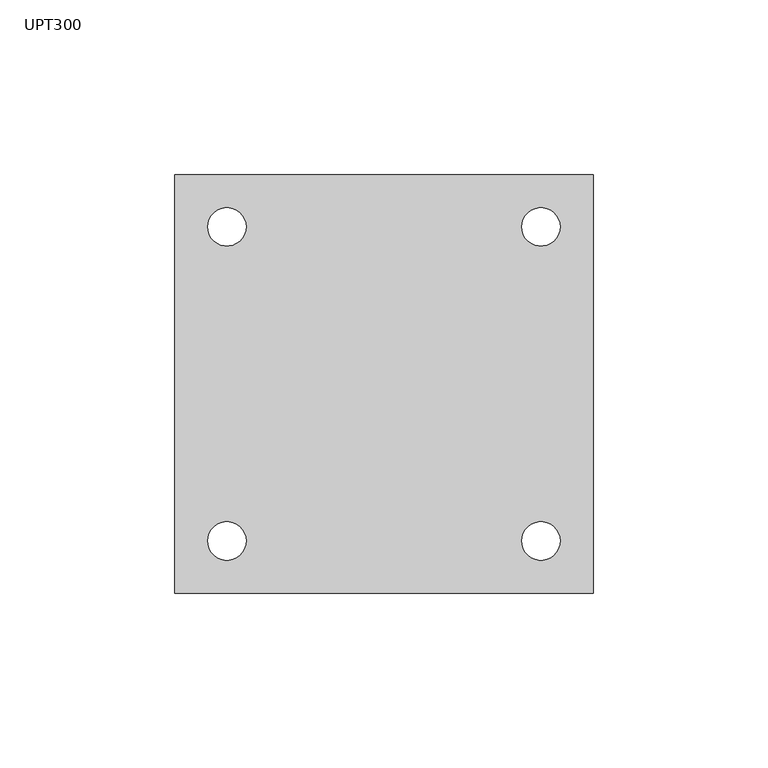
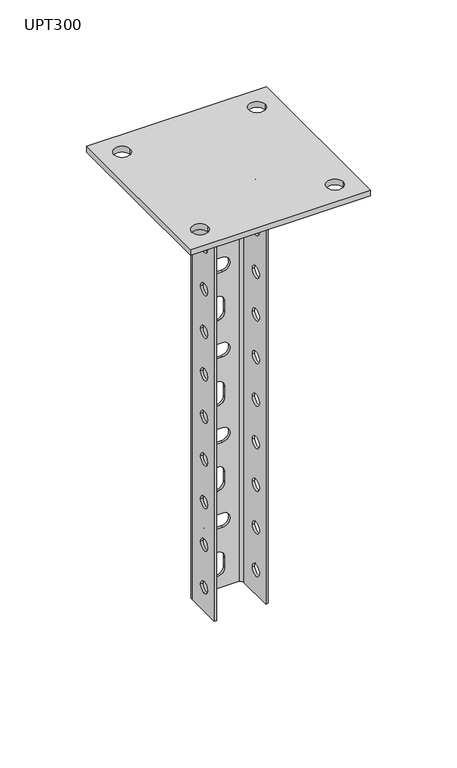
"""IFC4 building model written with IfcOpenShell, lengths in millimetres: proxy geometry, КМ Профиль_Универсальная потолочная стойка UPT : UPT300."""

from ifc_helpers import new_model, si_unit, point, frame, frame_2d, origin, place, context, project, spatial, polyline, circle_curve, trimmed, segment, composite_curve, outline, extrude, source, transform, mapped, element, save
from ifc_brep_helpers import plane_surface, cylinder_surface, revolved_surface, advanced_brep


def upt300_a44f2827(model_context):
    return source(origin(), model_context, "Body", "SolidModel", [
        advanced_brep(
        [(18.0, -14.5, -4.0), (18.0, 11.0, -4.0), (14.5, 14.5, -4.0), (-14.5, 14.5, -4.0), (-18.0, 11.0, -4.0), (-18.0, -14.5, -4.0), (-16.5, -14.5, -4.0), (-16.5, 11.0, -4.0), (-14.5, 13.0, -4.0), (14.5, 13.0, -4.0), (16.5, 11.0, -4.0), (16.5, -14.5, -4.0), (18.0, 11.0, -304.0), (18.0, -14.5, -304.0), (16.5, -14.5, -304.0), (16.5, 11.0, -304.0), (14.5, 13.0, -304.0), (-14.5, 13.0, -304.0), (-16.5, 11.0, -304.0), (-16.5, -14.5, -304.0), (-18.0, -14.5, -304.0), (-18.0, 11.0, -304.0), (-14.5, 14.5, -304.0), (14.5, 14.5, -304.0), (18.0, -7.0, -47.0), (18.0, 1.0, -47.0), (18.0, -7.0, -77.0), (18.0, 1.0, -77.0), (18.0, -7.0, -107.0), (18.0, 1.0, -107.0), (18.0, -7.0, -137.0), (18.0, 1.0, -137.0), (18.0, -7.0, -167.0), (18.0, 1.0, -167.0), (18.0, -7.0, -197.0), (18.0, 1.0, -197.0), (18.0, -7.0, -227.0), (18.0, 1.0, -227.0), (18.0, -7.0, -17.0), (18.0, 1.0, -17.0), (18.0, -7.0, -257.0), (18.0, 1.0, -257.0), (18.0, -7.0, -287.0), (18.0, 1.0, -287.0), (3.5, 14.5, -132.0), (-3.5, 14.5, -132.0), (-3.5, 14.5, -142.0), (3.5, 14.5, -142.0), (3.5, 14.5, -192.0), (-3.5, 14.5, -192.0), (-3.5, 14.5, -202.0), (3.5, 14.5, -202.0), (3.5, 14.5, -72.0), (-3.5, 14.5, -72.0), (-3.5, 14.5, -82.0), (3.5, 14.5, -82.0), (-5.0, 14.5, -103.5), (-5.0, 14.5, -110.5), (5.0, 14.5, -110.5), (5.0, 14.5, -103.5), (-5.0, 14.5, -163.5), (-5.0, 14.5, -170.5), (5.0, 14.5, -170.5), (5.0, 14.5, -163.5), (-5.0, 14.5, -223.5), (-5.0, 14.5, -230.5), (5.0, 14.5, -230.5), (5.0, 14.5, -223.5), (-5.0, 14.5, -43.5), (-5.0, 14.5, -50.5), (5.0, 14.5, -50.5), (5.0, 14.5, -43.5), (3.5, 14.5, -12.0), (-3.5, 14.5, -12.0), (-3.5, 14.5, -22.0), (3.5, 14.5, -22.0), (3.5, 14.5, -252.0), (-3.5, 14.5, -252.0), (-3.5, 14.5, -262.0), (3.5, 14.5, -262.0), (-5.0, 14.5, -283.5), (-5.0, 14.5, -290.5), (5.0, 14.5, -290.5), (5.0, 14.5, -283.5), (-18.0, -7.0, -17.0), (-18.0, 1.0, -17.0), (-18.0, -7.0, -47.0), (-18.0, 1.0, -47.0), (-18.0, -7.0, -77.0), (-18.0, 1.0, -77.0), (-18.0, -7.0, -107.0), (-18.0, 1.0, -107.0), (-18.0, -7.0, -137.0), (-18.0, 1.0, -137.0), (-18.0, -7.0, -167.0), (-18.0, 1.0, -167.0), (-18.0, -7.0, -197.0), (-18.0, 1.0, -197.0), (-18.0, -7.0, -227.0), (-18.0, 1.0, -227.0), (-18.0, -7.0, -257.0), (-18.0, 1.0, -257.0), (-18.0, -7.0, -287.0), (-18.0, 1.0, -287.0), (-16.5, 1.0, -17.0), (-16.5, -7.0, -17.0), (-16.5, 1.0, -47.0), (-16.5, -7.0, -47.0), (-16.5, 1.0, -77.0), (-16.5, -7.0, -77.0), (-16.5, 1.0, -107.0), (-16.5, -7.0, -107.0), (-16.5, 1.0, -137.0), (-16.5, -7.0, -137.0), (-16.5, 1.0, -167.0), (-16.5, -7.0, -167.0), (-16.5, 1.0, -197.0), (-16.5, -7.0, -197.0), (-16.5, 1.0, -227.0), (-16.5, -7.0, -227.0), (-16.5, 1.0, -257.0), (-16.5, -7.0, -257.0), (-16.5, 1.0, -287.0), (-16.5, -7.0, -287.0), (-3.5, 13.0, -132.0), (3.5, 13.0, -132.0), (3.5, 13.0, -142.0), (-3.5, 13.0, -142.0), (-3.5, 13.0, -192.0), (3.5, 13.0, -192.0), (3.5, 13.0, -202.0), (-3.5, 13.0, -202.0), (-3.5, 13.0, -72.0), (3.5, 13.0, -72.0), (3.5, 13.0, -82.0), (-3.5, 13.0, -82.0), (-5.0, 13.0, -110.5), (-5.0, 13.0, -103.5), (5.0, 13.0, -103.5), (5.0, 13.0, -110.5), (-5.0, 13.0, -170.5), (-5.0, 13.0, -163.5), (5.0, 13.0, -163.5), (5.0, 13.0, -170.5), (-5.0, 13.0, -230.5), (-5.0, 13.0, -223.5), (5.0, 13.0, -223.5), (5.0, 13.0, -230.5), (-5.0, 13.0, -50.5), (-5.0, 13.0, -43.5), (5.0, 13.0, -43.5), (5.0, 13.0, -50.5), (-3.5, 13.0, -12.0), (3.5, 13.0, -12.0), (3.5, 13.0, -22.0), (-3.5, 13.0, -22.0), (-3.5, 13.0, -252.0), (3.5, 13.0, -252.0), (3.5, 13.0, -262.0), (-3.5, 13.0, -262.0), (-5.0, 13.0, -290.5), (-5.0, 13.0, -283.5), (5.0, 13.0, -283.5), (5.0, 13.0, -290.5), (16.5, 1.0, -47.0), (16.5, -7.0, -47.0), (16.5, 1.0, -77.0), (16.5, -7.0, -77.0), (16.5, 1.0, -107.0), (16.5, -7.0, -107.0), (16.5, 1.0, -137.0), (16.5, -7.0, -137.0), (16.5, 1.0, -167.0), (16.5, -7.0, -167.0), (16.5, 1.0, -197.0), (16.5, -7.0, -197.0), (16.5, 1.0, -227.0), (16.5, -7.0, -227.0), (16.5, 1.0, -17.0), (16.5, -7.0, -17.0), (16.5, 1.0, -257.0), (16.5, -7.0, -257.0), (16.5, 1.0, -287.0), (16.5, -7.0, -287.0)],
        [
            (0, 1),
            (1, 2, circle_curve(frame((14.5, 11.0, -4.0), z_axis=(0.0, 0.0, 1.0), x_axis=(1.0, 0.0, 0.0)), 3.5)),
            (2, 3),
            (3, 4, circle_curve(frame((-14.5, 11.0, -4.0), z_axis=(0.0, 0.0, 1.0), x_axis=(1.0, 0.0, 0.0)), 3.5)),
            (4, 5),
            (5, 6),
            (6, 7),
            (7, 8, circle_curve(frame((-14.5, 11.0, -4.0), z_axis=(0.0, 0.0, -1.0), x_axis=(1.0, 0.0, 0.0)), 2.0)),
            (8, 9),
            (9, 10, circle_curve(frame((14.5, 11.0, -4.0), z_axis=(0.0, 0.0, -1.0), x_axis=(1.0, 0.0, 0.0)), 2.0)),
            (10, 11),
            (11, 0),
            (12, 13),
            (13, 14),
            (14, 15),
            (15, 16, circle_curve(frame((14.5, 11.0, -304.0), z_axis=(0.0, 0.0, 1.0), x_axis=(1.0, 0.0, 0.0)), 2.0)),
            (16, 17),
            (17, 18, circle_curve(frame((-14.5, 11.0, -304.0), z_axis=(0.0, 0.0, 1.0), x_axis=(1.0, 0.0, 0.0)), 2.0)),
            (18, 19),
            (19, 20),
            (20, 21),
            (21, 22, circle_curve(frame((-14.5, 11.0, -304.0), z_axis=(0.0, 0.0, -1.0), x_axis=(1.0, 0.0, 0.0)), 3.5)),
            (22, 23),
            (23, 12, circle_curve(frame((14.5, 11.0, -304.0), z_axis=(0.0, 0.0, -1.0), x_axis=(1.0, 0.0, 0.0)), 3.5)),
            (0, 13),
            (12, 1),
            (24, 25, circle_curve(frame((18.0, -3.0, -47.0), z_axis=(-1.0, 0.0, 0.0), x_axis=(0.0, -1.0, 0.0)), 4.0)),
            (25, 24, circle_curve(frame((18.0, -3.0, -47.0), z_axis=(-1.0, 0.0, 0.0), x_axis=(0.0, -1.0, 0.0)), 4.0)),
            (26, 27, circle_curve(frame((18.0, -3.0, -77.0), z_axis=(-1.0, 0.0, 0.0), x_axis=(0.0, -1.0, 0.0)), 4.0)),
            (27, 26, circle_curve(frame((18.0, -3.0, -77.0), z_axis=(-1.0, 0.0, 0.0), x_axis=(0.0, -1.0, 0.0)), 4.0)),
            (28, 29, circle_curve(frame((18.0, -3.0, -107.0), z_axis=(-1.0, 0.0, 0.0), x_axis=(0.0, -1.0, 0.0)), 4.0)),
            (29, 28, circle_curve(frame((18.0, -3.0, -107.0), z_axis=(-1.0, 0.0, 0.0), x_axis=(0.0, -1.0, 0.0)), 4.0)),
            (30, 31, circle_curve(frame((18.0, -3.0, -137.0), z_axis=(-1.0, 0.0, 0.0), x_axis=(0.0, -1.0, 0.0)), 4.0)),
            (31, 30, circle_curve(frame((18.0, -3.0, -137.0), z_axis=(-1.0, 0.0, 0.0), x_axis=(0.0, -1.0, 0.0)), 4.0)),
            (32, 33, circle_curve(frame((18.0, -3.0, -167.0), z_axis=(-1.0, 0.0, 0.0), x_axis=(0.0, -1.0, 0.0)), 4.0)),
            (33, 32, circle_curve(frame((18.0, -3.0, -167.0), z_axis=(-1.0, 0.0, 0.0), x_axis=(0.0, -1.0, 0.0)), 4.0)),
            (34, 35, circle_curve(frame((18.0, -3.0, -197.0), z_axis=(-1.0, 0.0, 0.0), x_axis=(0.0, -1.0, 0.0)), 4.0)),
            (35, 34, circle_curve(frame((18.0, -3.0, -197.0), z_axis=(-1.0, 0.0, 0.0), x_axis=(0.0, -1.0, 0.0)), 4.0)),
            (36, 37, circle_curve(frame((18.0, -3.0, -227.0), z_axis=(-1.0, 0.0, 0.0), x_axis=(0.0, -1.0, 0.0)), 4.0)),
            (37, 36, circle_curve(frame((18.0, -3.0, -227.0), z_axis=(-1.0, 0.0, 0.0), x_axis=(0.0, -1.0, 0.0)), 4.0)),
            (38, 39, circle_curve(frame((18.0, -3.0, -17.0), z_axis=(-1.0, 0.0, 0.0), x_axis=(0.0, -1.0, 0.0)), 4.0)),
            (39, 38, circle_curve(frame((18.0, -3.0, -17.0), z_axis=(-1.0, 0.0, 0.0), x_axis=(0.0, -1.0, 0.0)), 4.0)),
            (40, 41, circle_curve(frame((18.0, -3.0, -257.0), z_axis=(-1.0, 0.0, 0.0), x_axis=(0.0, -1.0, 0.0)), 4.0)),
            (41, 40, circle_curve(frame((18.0, -3.0, -257.0), z_axis=(-1.0, 0.0, 0.0), x_axis=(0.0, -1.0, 0.0)), 4.0)),
            (42, 43, circle_curve(frame((18.0, -3.0, -287.0), z_axis=(-1.0, 0.0, 0.0), x_axis=(0.0, -1.0, 0.0)), 4.0)),
            (43, 42, circle_curve(frame((18.0, -3.0, -287.0), z_axis=(-1.0, 0.0, 0.0), x_axis=(0.0, -1.0, 0.0)), 4.0)),
            (23, 2),
            (22, 3),
            (44, 45),
            (45, 46, circle_curve(frame((-3.5, 14.5, -137.0), z_axis=(0.0, -1.0, 0.0), x_axis=(-1.0, 0.0, 0.0)), 5.0)),
            (46, 47),
            (47, 44, circle_curve(frame((3.5, 14.5, -137.0), z_axis=(0.0, -1.0, 0.0), x_axis=(-1.0, 0.0, 0.0)), 5.0)),
            (48, 49),
            (49, 50, circle_curve(frame((-3.5, 14.5, -197.0), z_axis=(0.0, -1.0, 0.0), x_axis=(-1.0, 0.0, 0.0)), 5.0)),
            (50, 51),
            (51, 48, circle_curve(frame((3.5, 14.5, -197.0), z_axis=(0.0, -1.0, 0.0), x_axis=(-1.0, 0.0, 0.0)), 5.0)),
            (52, 53),
            (53, 54, circle_curve(frame((-3.5, 14.5, -77.0), z_axis=(0.0, -1.0, 0.0), x_axis=(-1.0, 0.0, 0.0)), 5.0)),
            (54, 55),
            (55, 52, circle_curve(frame((3.5, 14.5, -77.0), z_axis=(0.0, -1.0, 0.0), x_axis=(-1.0, 0.0, 0.0)), 5.0)),
            (56, 57),
            (57, 58, circle_curve(frame((0.0, 14.5, -110.5), z_axis=(0.0, -1.0, 0.0), x_axis=(0.0, 0.0, -1.0)), 5.0)),
            (58, 59),
            (59, 56, circle_curve(frame((0.0, 14.5, -103.5), z_axis=(0.0, -1.0, 0.0), x_axis=(0.0, 0.0, -1.0)), 5.0)),
            (60, 61),
            (61, 62, circle_curve(frame((0.0, 14.5, -170.5), z_axis=(0.0, -1.0, 0.0), x_axis=(0.0, 0.0, -1.0)), 5.0)),
            (62, 63),
            (63, 60, circle_curve(frame((0.0, 14.5, -163.5), z_axis=(0.0, -1.0, 0.0), x_axis=(0.0, 0.0, -1.0)), 5.0)),
            (64, 65),
            (65, 66, circle_curve(frame((0.0, 14.5, -230.5), z_axis=(0.0, -1.0, 0.0), x_axis=(0.0, 0.0, -1.0)), 5.0)),
            (66, 67),
            (67, 64, circle_curve(frame((0.0, 14.5, -223.5), z_axis=(0.0, -1.0, 0.0), x_axis=(0.0, 0.0, -1.0)), 5.0)),
            (68, 69),
            (69, 70, circle_curve(frame((0.0, 14.5, -50.5), z_axis=(0.0, -1.0, 0.0), x_axis=(0.0, 0.0, -1.0)), 5.0)),
            (70, 71),
            (71, 68, circle_curve(frame((0.0, 14.5, -43.5), z_axis=(0.0, -1.0, 0.0), x_axis=(0.0, 0.0, -1.0)), 5.0)),
            (72, 73),
            (73, 74, circle_curve(frame((-3.5, 14.5, -17.0), z_axis=(0.0, -1.0, 0.0), x_axis=(-1.0, 0.0, 0.0)), 5.0)),
            (74, 75),
            (75, 72, circle_curve(frame((3.5, 14.5, -17.0), z_axis=(0.0, -1.0, 0.0), x_axis=(-1.0, 0.0, 0.0)), 5.0)),
            (76, 77),
            (77, 78, circle_curve(frame((-3.5, 14.5, -257.0), z_axis=(0.0, -1.0, 0.0), x_axis=(-1.0, 0.0, 0.0)), 5.0)),
            (78, 79),
            (79, 76, circle_curve(frame((3.5, 14.5, -257.0), z_axis=(0.0, -1.0, 0.0), x_axis=(-1.0, 0.0, 0.0)), 5.0)),
            (80, 81),
            (81, 82, circle_curve(frame((0.0, 14.5, -290.5), z_axis=(0.0, -1.0, 0.0), x_axis=(0.0, 0.0, -1.0)), 5.0)),
            (82, 83),
            (83, 80, circle_curve(frame((0.0, 14.5, -283.5), z_axis=(0.0, -1.0, 0.0), x_axis=(0.0, 0.0, -1.0)), 5.0)),
            (21, 4),
            (20, 5),
            (84, 85, circle_curve(frame((-18.0, -3.0, -17.0), z_axis=(1.0, 0.0, 0.0), x_axis=(0.0, -1.0, 0.0)), 4.0)),
            (85, 84, circle_curve(frame((-18.0, -3.0, -17.0), z_axis=(1.0, 0.0, 0.0), x_axis=(0.0, -1.0, 0.0)), 4.0)),
            (86, 87, circle_curve(frame((-18.0, -3.0, -47.0), z_axis=(1.0, 0.0, 0.0), x_axis=(0.0, -1.0, 0.0)), 4.0)),
            (87, 86, circle_curve(frame((-18.0, -3.0, -47.0), z_axis=(1.0, 0.0, 0.0), x_axis=(0.0, -1.0, 0.0)), 4.0)),
            (88, 89, circle_curve(frame((-18.0, -3.0, -77.0), z_axis=(1.0, 0.0, 0.0), x_axis=(0.0, -1.0, 0.0)), 4.0)),
            (89, 88, circle_curve(frame((-18.0, -3.0, -77.0), z_axis=(1.0, 0.0, 0.0), x_axis=(0.0, -1.0, 0.0)), 4.0)),
            (90, 91, circle_curve(frame((-18.0, -3.0, -107.0), z_axis=(1.0, 0.0, 0.0), x_axis=(0.0, -1.0, 0.0)), 4.0)),
            (91, 90, circle_curve(frame((-18.0, -3.0, -107.0), z_axis=(1.0, 0.0, 0.0), x_axis=(0.0, -1.0, 0.0)), 4.0)),
            (92, 93, circle_curve(frame((-18.0, -3.0, -137.0), z_axis=(1.0, 0.0, 0.0), x_axis=(0.0, -1.0, 0.0)), 4.0)),
            (93, 92, circle_curve(frame((-18.0, -3.0, -137.0), z_axis=(1.0, 0.0, 0.0), x_axis=(0.0, -1.0, 0.0)), 4.0)),
            (94, 95, circle_curve(frame((-18.0, -3.0, -167.0), z_axis=(1.0, 0.0, 0.0), x_axis=(0.0, -1.0, 0.0)), 4.0)),
            (95, 94, circle_curve(frame((-18.0, -3.0, -167.0), z_axis=(1.0, 0.0, 0.0), x_axis=(0.0, -1.0, 0.0)), 4.0)),
            (96, 97, circle_curve(frame((-18.0, -3.0, -197.0), z_axis=(1.0, 0.0, 0.0), x_axis=(0.0, -1.0, 0.0)), 4.0)),
            (97, 96, circle_curve(frame((-18.0, -3.0, -197.0), z_axis=(1.0, 0.0, 0.0), x_axis=(0.0, -1.0, 0.0)), 4.0)),
            (98, 99, circle_curve(frame((-18.0, -3.0, -227.0), z_axis=(1.0, 0.0, 0.0), x_axis=(0.0, -1.0, 0.0)), 4.0)),
            (99, 98, circle_curve(frame((-18.0, -3.0, -227.0), z_axis=(1.0, 0.0, 0.0), x_axis=(0.0, -1.0, 0.0)), 4.0)),
            (100, 101, circle_curve(frame((-18.0, -3.0, -257.0), z_axis=(1.0, 0.0, 0.0), x_axis=(0.0, -1.0, 0.0)), 4.0)),
            (101, 100, circle_curve(frame((-18.0, -3.0, -257.0), z_axis=(1.0, 0.0, 0.0), x_axis=(0.0, -1.0, 0.0)), 4.0)),
            (102, 103, circle_curve(frame((-18.0, -3.0, -287.0), z_axis=(1.0, 0.0, 0.0), x_axis=(0.0, -1.0, 0.0)), 4.0)),
            (103, 102, circle_curve(frame((-18.0, -3.0, -287.0), z_axis=(1.0, 0.0, 0.0), x_axis=(0.0, -1.0, 0.0)), 4.0)),
            (19, 6),
            (18, 7),
            (104, 105, circle_curve(frame((-16.5, -3.0, -17.0), z_axis=(-1.0, 0.0, 0.0), x_axis=(0.0, -1.0, 0.0)), 4.0)),
            (105, 104, circle_curve(frame((-16.5, -3.0, -17.0), z_axis=(-1.0, 0.0, 0.0), x_axis=(0.0, -1.0, 0.0)), 4.0)),
            (106, 107, circle_curve(frame((-16.5, -3.0, -47.0), z_axis=(-1.0, 0.0, 0.0), x_axis=(0.0, -1.0, 0.0)), 4.0)),
            (107, 106, circle_curve(frame((-16.5, -3.0, -47.0), z_axis=(-1.0, 0.0, 0.0), x_axis=(0.0, -1.0, 0.0)), 4.0)),
            (108, 109, circle_curve(frame((-16.5, -3.0, -77.0), z_axis=(-1.0, 0.0, 0.0), x_axis=(0.0, -1.0, 0.0)), 4.0)),
            (109, 108, circle_curve(frame((-16.5, -3.0, -77.0), z_axis=(-1.0, 0.0, 0.0), x_axis=(0.0, -1.0, 0.0)), 4.0)),
            (110, 111, circle_curve(frame((-16.5, -3.0, -107.0), z_axis=(-1.0, 0.0, 0.0), x_axis=(0.0, -1.0, 0.0)), 4.0)),
            (111, 110, circle_curve(frame((-16.5, -3.0, -107.0), z_axis=(-1.0, 0.0, 0.0), x_axis=(0.0, -1.0, 0.0)), 4.0)),
            (112, 113, circle_curve(frame((-16.5, -3.0, -137.0), z_axis=(-1.0, 0.0, 0.0), x_axis=(0.0, -1.0, 0.0)), 4.0)),
            (113, 112, circle_curve(frame((-16.5, -3.0, -137.0), z_axis=(-1.0, 0.0, 0.0), x_axis=(0.0, -1.0, 0.0)), 4.0)),
            (114, 115, circle_curve(frame((-16.5, -3.0, -167.0), z_axis=(-1.0, 0.0, 0.0), x_axis=(0.0, -1.0, 0.0)), 4.0)),
            (115, 114, circle_curve(frame((-16.5, -3.0, -167.0), z_axis=(-1.0, 0.0, 0.0), x_axis=(0.0, -1.0, 0.0)), 4.0)),
            (116, 117, circle_curve(frame((-16.5, -3.0, -197.0), z_axis=(-1.0, 0.0, 0.0), x_axis=(0.0, -1.0, 0.0)), 4.0)),
            (117, 116, circle_curve(frame((-16.5, -3.0, -197.0), z_axis=(-1.0, 0.0, 0.0), x_axis=(0.0, -1.0, 0.0)), 4.0)),
            (118, 119, circle_curve(frame((-16.5, -3.0, -227.0), z_axis=(-1.0, 0.0, 0.0), x_axis=(0.0, -1.0, 0.0)), 4.0)),
            (119, 118, circle_curve(frame((-16.5, -3.0, -227.0), z_axis=(-1.0, 0.0, 0.0), x_axis=(0.0, -1.0, 0.0)), 4.0)),
            (120, 121, circle_curve(frame((-16.5, -3.0, -257.0), z_axis=(-1.0, 0.0, 0.0), x_axis=(0.0, -1.0, 0.0)), 4.0)),
            (121, 120, circle_curve(frame((-16.5, -3.0, -257.0), z_axis=(-1.0, 0.0, 0.0), x_axis=(0.0, -1.0, 0.0)), 4.0)),
            (122, 123, circle_curve(frame((-16.5, -3.0, -287.0), z_axis=(-1.0, 0.0, 0.0), x_axis=(0.0, -1.0, 0.0)), 4.0)),
            (123, 122, circle_curve(frame((-16.5, -3.0, -287.0), z_axis=(-1.0, 0.0, 0.0), x_axis=(0.0, -1.0, 0.0)), 4.0)),
            (17, 8),
            (16, 9),
            (124, 125),
            (125, 126, circle_curve(frame((3.5, 13.0, -137.0), z_axis=(0.0, 1.0, 0.0), x_axis=(-1.0, 0.0, 0.0)), 5.0)),
            (126, 127),
            (127, 124, circle_curve(frame((-3.5, 13.0, -137.0), z_axis=(0.0, 1.0, 0.0), x_axis=(-1.0, 0.0, 0.0)), 5.0)),
            (128, 129),
            (129, 130, circle_curve(frame((3.5, 13.0, -197.0), z_axis=(0.0, 1.0, 0.0), x_axis=(-1.0, 0.0, 0.0)), 5.0)),
            (130, 131),
            (131, 128, circle_curve(frame((-3.5, 13.0, -197.0), z_axis=(0.0, 1.0, 0.0), x_axis=(-1.0, 0.0, 0.0)), 5.0)),
            (132, 133),
            (133, 134, circle_curve(frame((3.5, 13.0, -77.0), z_axis=(0.0, 1.0, 0.0), x_axis=(-1.0, 0.0, 0.0)), 5.0)),
            (134, 135),
            (135, 132, circle_curve(frame((-3.5, 13.0, -77.0), z_axis=(0.0, 1.0, 0.0), x_axis=(-1.0, 0.0, 0.0)), 5.0)),
            (136, 137),
            (137, 138, circle_curve(frame((0.0, 13.0, -103.5), z_axis=(0.0, 1.0, 0.0), x_axis=(0.0, 0.0, -1.0)), 5.0)),
            (138, 139),
            (139, 136, circle_curve(frame((0.0, 13.0, -110.5), z_axis=(0.0, 1.0, 0.0), x_axis=(0.0, 0.0, -1.0)), 5.0)),
            (140, 141),
            (141, 142, circle_curve(frame((0.0, 13.0, -163.5), z_axis=(0.0, 1.0, 0.0), x_axis=(0.0, 0.0, -1.0)), 5.0)),
            (142, 143),
            (143, 140, circle_curve(frame((0.0, 13.0, -170.5), z_axis=(0.0, 1.0, 0.0), x_axis=(0.0, 0.0, -1.0)), 5.0)),
            (144, 145),
            (145, 146, circle_curve(frame((0.0, 13.0, -223.5), z_axis=(0.0, 1.0, 0.0), x_axis=(0.0, 0.0, -1.0)), 5.0)),
            (146, 147),
            (147, 144, circle_curve(frame((0.0, 13.0, -230.5), z_axis=(0.0, 1.0, 0.0), x_axis=(0.0, 0.0, -1.0)), 5.0)),
            (148, 149),
            (149, 150, circle_curve(frame((0.0, 13.0, -43.5), z_axis=(0.0, 1.0, 0.0), x_axis=(0.0, 0.0, -1.0)), 5.0)),
            (150, 151),
            (151, 148, circle_curve(frame((0.0, 13.0, -50.5), z_axis=(0.0, 1.0, 0.0), x_axis=(0.0, 0.0, -1.0)), 5.0)),
            (152, 153),
            (153, 154, circle_curve(frame((3.5, 13.0, -17.0), z_axis=(0.0, 1.0, 0.0), x_axis=(-1.0, 0.0, 0.0)), 5.0)),
            (154, 155),
            (155, 152, circle_curve(frame((-3.5, 13.0, -17.0), z_axis=(0.0, 1.0, 0.0), x_axis=(-1.0, 0.0, 0.0)), 5.0)),
            (156, 157),
            (157, 158, circle_curve(frame((3.5, 13.0, -257.0), z_axis=(0.0, 1.0, 0.0), x_axis=(-1.0, 0.0, 0.0)), 5.0)),
            (158, 159),
            (159, 156, circle_curve(frame((-3.5, 13.0, -257.0), z_axis=(0.0, 1.0, 0.0), x_axis=(-1.0, 0.0, 0.0)), 5.0)),
            (160, 161),
            (161, 162, circle_curve(frame((0.0, 13.0, -283.5), z_axis=(0.0, 1.0, 0.0), x_axis=(0.0, 0.0, -1.0)), 5.0)),
            (162, 163),
            (163, 160, circle_curve(frame((0.0, 13.0, -290.5), z_axis=(0.0, 1.0, 0.0), x_axis=(0.0, 0.0, -1.0)), 5.0)),
            (15, 10),
            (14, 11),
            (164, 165, circle_curve(frame((16.5, -3.0, -47.0), z_axis=(1.0, 0.0, 0.0), x_axis=(0.0, -1.0, 0.0)), 4.0)),
            (165, 164, circle_curve(frame((16.5, -3.0, -47.0), z_axis=(1.0, 0.0, 0.0), x_axis=(0.0, -1.0, 0.0)), 4.0)),
            (166, 167, circle_curve(frame((16.5, -3.0, -77.0), z_axis=(1.0, 0.0, 0.0), x_axis=(0.0, -1.0, 0.0)), 4.0)),
            (167, 166, circle_curve(frame((16.5, -3.0, -77.0), z_axis=(1.0, 0.0, 0.0), x_axis=(0.0, -1.0, 0.0)), 4.0)),
            (168, 169, circle_curve(frame((16.5, -3.0, -107.0), z_axis=(1.0, 0.0, 0.0), x_axis=(0.0, -1.0, 0.0)), 4.0)),
            (169, 168, circle_curve(frame((16.5, -3.0, -107.0), z_axis=(1.0, 0.0, 0.0), x_axis=(0.0, -1.0, 0.0)), 4.0)),
            (170, 171, circle_curve(frame((16.5, -3.0, -137.0), z_axis=(1.0, 0.0, 0.0), x_axis=(0.0, -1.0, 0.0)), 4.0)),
            (171, 170, circle_curve(frame((16.5, -3.0, -137.0), z_axis=(1.0, 0.0, 0.0), x_axis=(0.0, -1.0, 0.0)), 4.0)),
            (172, 173, circle_curve(frame((16.5, -3.0, -167.0), z_axis=(1.0, 0.0, 0.0), x_axis=(0.0, -1.0, 0.0)), 4.0)),
            (173, 172, circle_curve(frame((16.5, -3.0, -167.0), z_axis=(1.0, 0.0, 0.0), x_axis=(0.0, -1.0, 0.0)), 4.0)),
            (174, 175, circle_curve(frame((16.5, -3.0, -197.0), z_axis=(1.0, 0.0, 0.0), x_axis=(0.0, -1.0, 0.0)), 4.0)),
            (175, 174, circle_curve(frame((16.5, -3.0, -197.0), z_axis=(1.0, 0.0, 0.0), x_axis=(0.0, -1.0, 0.0)), 4.0)),
            (176, 177, circle_curve(frame((16.5, -3.0, -227.0), z_axis=(1.0, 0.0, 0.0), x_axis=(0.0, -1.0, 0.0)), 4.0)),
            (177, 176, circle_curve(frame((16.5, -3.0, -227.0), z_axis=(1.0, 0.0, 0.0), x_axis=(0.0, -1.0, 0.0)), 4.0)),
            (178, 179, circle_curve(frame((16.5, -3.0, -17.0), z_axis=(1.0, 0.0, 0.0), x_axis=(0.0, -1.0, 0.0)), 4.0)),
            (179, 178, circle_curve(frame((16.5, -3.0, -17.0), z_axis=(1.0, 0.0, 0.0), x_axis=(0.0, -1.0, 0.0)), 4.0)),
            (180, 181, circle_curve(frame((16.5, -3.0, -257.0), z_axis=(1.0, 0.0, 0.0), x_axis=(0.0, -1.0, 0.0)), 4.0)),
            (181, 180, circle_curve(frame((16.5, -3.0, -257.0), z_axis=(1.0, 0.0, 0.0), x_axis=(0.0, -1.0, 0.0)), 4.0)),
            (182, 183, circle_curve(frame((16.5, -3.0, -287.0), z_axis=(1.0, 0.0, 0.0), x_axis=(0.0, -1.0, 0.0)), 4.0)),
            (183, 182, circle_curve(frame((16.5, -3.0, -287.0), z_axis=(1.0, 0.0, 0.0), x_axis=(0.0, -1.0, 0.0)), 4.0)),
            (44, 125),
            (124, 45),
            (47, 126),
            (46, 127),
            (48, 129),
            (128, 49),
            (51, 130),
            (50, 131),
            (52, 133),
            (132, 53),
            (55, 134),
            (54, 135),
            (56, 137),
            (136, 57),
            (59, 138),
            (58, 139),
            (60, 141),
            (140, 61),
            (63, 142),
            (62, 143),
            (64, 145),
            (144, 65),
            (67, 146),
            (66, 147),
            (84, 105),
            (104, 85),
            (24, 165),
            (164, 25),
            (86, 107),
            (106, 87),
            (26, 167),
            (166, 27),
            (88, 109),
            (108, 89),
            (28, 169),
            (168, 29),
            (90, 111),
            (110, 91),
            (30, 171),
            (170, 31),
            (92, 113),
            (112, 93),
            (32, 173),
            (172, 33),
            (94, 115),
            (114, 95),
            (34, 175),
            (174, 35),
            (96, 117),
            (116, 97),
            (36, 177),
            (176, 37),
            (98, 119),
            (118, 99),
            (38, 179),
            (178, 39),
            (68, 149),
            (148, 69),
            (71, 150),
            (70, 151),
            (72, 153),
            (152, 73),
            (75, 154),
            (74, 155),
            (76, 157),
            (156, 77),
            (79, 158),
            (78, 159),
            (80, 161),
            (160, 81),
            (83, 162),
            (82, 163),
            (40, 181),
            (180, 41),
            (100, 121),
            (120, 101),
            (42, 183),
            (182, 43),
            (102, 123),
            (122, 103),
        ],
        [
            plane_surface(frame((18.0, 11.0, -4.0), z_axis=(0.0, 0.0, 1.0), x_axis=(0.0, 1.0, 0.0))),
            plane_surface(frame((18.0, 11.0, -304.0), z_axis=(0.0, 0.0, -1.0), x_axis=(0.0, -1.0, 0.0))),
            plane_surface(frame((18.0, -14.5, -4.0), z_axis=(1.0, 0.0, 0.0), x_axis=(0.0, 0.0, -1.0))),
            cylinder_surface(frame((14.5, 11.0, -304.0), z_axis=(0.0, 0.0, 1.0), x_axis=(1.0, 0.0, 0.0)), 3.5),
            plane_surface(frame((14.5, 14.5, -4.0), z_axis=(0.0, 1.0, 0.0), x_axis=(0.0, 0.0, -1.0))),
            cylinder_surface(frame((-14.5, 11.0, -304.0), z_axis=(0.0, 0.0, 1.0), x_axis=(1.0, 0.0, 0.0)), 3.5),
            plane_surface(frame((-18.0, 11.0, -4.0), z_axis=(-1.0, 0.0, 0.0), x_axis=(0.0, 0.0, -1.0))),
            plane_surface(frame((-18.0, -14.5, -4.0), z_axis=(0.0, -1.0, 0.0), x_axis=(0.0, 0.0, -1.0))),
            plane_surface(frame((-16.5, -14.5, -4.0), z_axis=(1.0, 0.0, 0.0), x_axis=(0.0, 0.0, -1.0))),
            revolved_surface(polyline([(-12.5, 11.0, -304.0), (-12.5, 11.0, -4.0)]), (-14.5, 11.0, -304.0), (0.0, 0.0, -1.0)),
            plane_surface(frame((-14.5, 13.0, -4.0), z_axis=(0.0, -1.0, 0.0), x_axis=(0.0, 0.0, -1.0))),
            revolved_surface(polyline([(16.5, 11.0, -304.0), (16.5, 11.0, -4.0)]), (14.5, 11.0, -304.0), (0.0, 0.0, -1.0)),
            plane_surface(frame((16.5, 11.0, -4.0), z_axis=(-1.0, 0.0, 0.0), x_axis=(0.0, 0.0, -1.0))),
            plane_surface(frame((16.5, -14.5, -4.0), z_axis=(0.0, -1.0, 0.0), x_axis=(0.0, 0.0, -1.0))),
            plane_surface(frame((-3.5, 14.5, -132.0), z_axis=(0.0, 0.0, -1.0), x_axis=(0.0, -1.0, 0.0))),
            revolved_surface(polyline([(-1.5, 14.5, -137.0), (-1.5, 13.0, -137.0)]), (3.5, 13.0, -137.0), (0.0, 1.0, 0.0)),
            plane_surface(frame((3.5, 14.5, -142.0), z_axis=(0.0, 0.0, 1.0), x_axis=(0.0, -1.0, 0.0))),
            revolved_surface(polyline([(-8.5, 14.5, -137.0), (-8.5, 13.0, -137.0)]), (-3.5, 13.0, -137.0), (0.0, 1.0, 0.0)),
            plane_surface(frame((-3.5, 14.5, -192.0), z_axis=(0.0, 0.0, -1.0), x_axis=(0.0, -1.0, 0.0))),
            revolved_surface(polyline([(-1.5, 14.5, -197.0), (-1.5, 13.0, -197.0)]), (3.5, 13.0, -197.0), (0.0, 1.0, 0.0)),
            plane_surface(frame((3.5, 14.5, -202.0), z_axis=(0.0, 0.0, 1.0), x_axis=(0.0, -1.0, 0.0))),
            revolved_surface(polyline([(-8.5, 14.5, -197.0), (-8.5, 13.0, -197.0)]), (-3.5, 13.0, -197.0), (0.0, 1.0, 0.0)),
            plane_surface(frame((-3.5, 14.5, -72.0), z_axis=(0.0, 0.0, -1.0), x_axis=(0.0, -1.0, 0.0))),
            revolved_surface(polyline([(-1.5, 14.5, -77.0), (-1.5, 13.0, -77.0)]), (3.5, 13.0, -77.0), (0.0, 1.0, 0.0)),
            plane_surface(frame((3.5, 14.5, -82.0), z_axis=(0.0, 0.0, 1.0), x_axis=(0.0, -1.0, 0.0))),
            revolved_surface(polyline([(-8.5, 14.5, -77.0), (-8.5, 13.0, -77.0)]), (-3.5, 13.0, -77.0), (0.0, 1.0, 0.0)),
            plane_surface(frame((-5.0, 14.5, -110.5), z_axis=(1.0, 0.0, 0.0), x_axis=(0.0, -1.0, 0.0))),
            revolved_surface(polyline([(0.0, 14.5, -108.5), (0.0, 13.0, -108.5)]), (0.0, 13.0, -103.5), (0.0, 1.0, 0.0)),
            plane_surface(frame((5.0, 14.5, -103.5), z_axis=(-1.0, 0.0, 0.0), x_axis=(0.0, -1.0, 0.0))),
            revolved_surface(polyline([(0.0, 14.5, -115.5), (0.0, 13.0, -115.5)]), (0.0, 13.0, -110.5), (0.0, 1.0, 0.0)),
            plane_surface(frame((-5.0, 14.5, -170.5), z_axis=(1.0, 0.0, 0.0), x_axis=(0.0, -1.0, 0.0))),
            revolved_surface(polyline([(0.0, 14.5, -168.5), (0.0, 13.0, -168.5)]), (0.0, 13.0, -163.5), (0.0, 1.0, 0.0)),
            plane_surface(frame((5.0, 14.5, -163.5), z_axis=(-1.0, 0.0, 0.0), x_axis=(0.0, -1.0, 0.0))),
            revolved_surface(polyline([(0.0, 14.5, -175.5), (0.0, 13.0, -175.5)]), (0.0, 13.0, -170.5), (0.0, 1.0, 0.0)),
            plane_surface(frame((-5.0, 14.5, -230.5), z_axis=(1.0, 0.0, 0.0), x_axis=(0.0, -1.0, 0.0))),
            revolved_surface(polyline([(0.0, 14.5, -228.5), (0.0, 13.0, -228.5)]), (0.0, 13.0, -223.5), (0.0, 1.0, 0.0)),
            plane_surface(frame((5.0, 14.5, -223.5), z_axis=(-1.0, 0.0, 0.0), x_axis=(0.0, -1.0, 0.0))),
            revolved_surface(polyline([(0.0, 14.5, -235.5), (0.0, 13.0, -235.5)]), (0.0, 13.0, -230.5), (0.0, 1.0, 0.0)),
            revolved_surface(polyline([(-18.0, -7.0, -17.0), (-16.5, -7.0, -17.0)]), (-16.5, -3.0, -17.0), (-1.0, 0.0, 0.0)),
            revolved_surface(polyline([(18.0, -7.0, -47.0), (16.5, -7.0, -47.0)]), (16.5, -3.0, -47.0), (1.0, 0.0, 0.0)),
            revolved_surface(polyline([(-18.0, -7.0, -47.0), (-16.5, -7.0, -47.0)]), (-16.5, -3.0, -47.0), (-1.0, 0.0, 0.0)),
            revolved_surface(polyline([(18.0, -7.0, -77.0), (16.5, -7.0, -77.0)]), (16.5, -3.0, -77.0), (1.0, 0.0, 0.0)),
            revolved_surface(polyline([(-18.0, -7.0, -77.0), (-16.5, -7.0, -77.0)]), (-16.5, -3.0, -77.0), (-1.0, 0.0, 0.0)),
            revolved_surface(polyline([(18.0, -7.0, -107.0), (16.5, -7.0, -107.0)]), (16.5, -3.0, -107.0), (1.0, 0.0, 0.0)),
            revolved_surface(polyline([(-18.0, -7.0, -107.0), (-16.5, -7.0, -107.0)]), (-16.5, -3.0, -107.0), (-1.0, 0.0, 0.0)),
            revolved_surface(polyline([(18.0, -7.0, -137.0), (16.5, -7.0, -137.0)]), (16.5, -3.0, -137.0), (1.0, 0.0, 0.0)),
            revolved_surface(polyline([(-18.0, -7.0, -137.0), (-16.5, -7.0, -137.0)]), (-16.5, -3.0, -137.0), (-1.0, 0.0, 0.0)),
            revolved_surface(polyline([(18.0, -7.0, -167.0), (16.5, -7.0, -167.0)]), (16.5, -3.0, -167.0), (1.0, 0.0, 0.0)),
            revolved_surface(polyline([(-18.0, -7.0, -167.0), (-16.5, -7.0, -167.0)]), (-16.5, -3.0, -167.0), (-1.0, 0.0, 0.0)),
            revolved_surface(polyline([(18.0, -7.0, -197.0), (16.5, -7.0, -197.0)]), (16.5, -3.0, -197.0), (1.0, 0.0, 0.0)),
            revolved_surface(polyline([(-18.0, -7.0, -197.0), (-16.5, -7.0, -197.0)]), (-16.5, -3.0, -197.0), (-1.0, 0.0, 0.0)),
            revolved_surface(polyline([(18.0, -7.0, -227.0), (16.5, -7.0, -227.0)]), (16.5, -3.0, -227.0), (1.0, 0.0, 0.0)),
            revolved_surface(polyline([(-18.0, -7.0, -227.0), (-16.5, -7.0, -227.0)]), (-16.5, -3.0, -227.0), (-1.0, 0.0, 0.0)),
            revolved_surface(polyline([(18.0, -7.0, -17.0), (16.5, -7.0, -17.0)]), (16.5, -3.0, -17.0), (1.0, 0.0, 0.0)),
            plane_surface(frame((-5.0, 14.5, -50.5), z_axis=(1.0, 0.0, 0.0), x_axis=(0.0, -1.0, 0.0))),
            revolved_surface(polyline([(0.0, 14.5, -48.5), (0.0, 13.0, -48.5)]), (0.0, 13.0, -43.5), (0.0, 1.0, 0.0)),
            plane_surface(frame((5.0, 14.5, -43.5), z_axis=(-1.0, 0.0, 0.0), x_axis=(0.0, -1.0, 0.0))),
            revolved_surface(polyline([(0.0, 14.5, -55.5), (0.0, 13.0, -55.5)]), (0.0, 13.0, -50.5), (0.0, 1.0, 0.0)),
            plane_surface(frame((-3.5, 14.5, -12.0), z_axis=(0.0, 0.0, -1.0), x_axis=(0.0, -1.0, 0.0))),
            revolved_surface(polyline([(-1.5, 14.5, -17.0), (-1.5, 13.0, -17.0)]), (3.5, 13.0, -17.0), (0.0, 1.0, 0.0)),
            plane_surface(frame((3.5, 14.5, -22.0), z_axis=(0.0, 0.0, 1.0), x_axis=(0.0, -1.0, 0.0))),
            revolved_surface(polyline([(-8.5, 14.5, -17.0), (-8.5, 13.0, -17.0)]), (-3.5, 13.0, -17.0), (0.0, 1.0, 0.0)),
            plane_surface(frame((-3.5, 14.5, -252.0), z_axis=(0.0, 0.0, -1.0), x_axis=(0.0, -1.0, 0.0))),
            revolved_surface(polyline([(-1.5, 14.5, -257.0), (-1.5, 13.0, -257.0)]), (3.5, 13.0, -257.0), (0.0, 1.0, 0.0)),
            plane_surface(frame((3.5, 14.5, -262.0), z_axis=(0.0, 0.0, 1.0), x_axis=(0.0, -1.0, 0.0))),
            revolved_surface(polyline([(-8.5, 14.5, -257.0), (-8.5, 13.0, -257.0)]), (-3.5, 13.0, -257.0), (0.0, 1.0, 0.0)),
            plane_surface(frame((-5.0, 14.5, -290.5), z_axis=(1.0, 0.0, 0.0), x_axis=(0.0, -1.0, 0.0))),
            revolved_surface(polyline([(0.0, 14.5, -288.5), (0.0, 13.0, -288.5)]), (0.0, 13.0, -283.5), (0.0, 1.0, 0.0)),
            plane_surface(frame((5.0, 14.5, -283.5), z_axis=(-1.0, 0.0, 0.0), x_axis=(0.0, -1.0, 0.0))),
            revolved_surface(polyline([(0.0, 14.5, -295.5), (0.0, 13.0, -295.5)]), (0.0, 13.0, -290.5), (0.0, 1.0, 0.0)),
            revolved_surface(polyline([(18.0, -7.0, -257.0), (16.5, -7.0, -257.0)]), (16.5, -3.0, -257.0), (1.0, 0.0, 0.0)),
            revolved_surface(polyline([(-18.0, -7.0, -257.0), (-16.5, -7.0, -257.0)]), (-16.5, -3.0, -257.0), (-1.0, 0.0, 0.0)),
            revolved_surface(polyline([(18.0, -7.0, -287.0), (16.5, -7.0, -287.0)]), (16.5, -3.0, -287.0), (1.0, 0.0, 0.0)),
            revolved_surface(polyline([(-18.0, -7.0, -287.0), (-16.5, -7.0, -287.0)]), (-16.5, -3.0, -287.0), (-1.0, 0.0, 0.0)),
        ],
        [
            (0, [[1, 2, 3, 4, 5, 6, 7, 8, 9, 10, 11, 12]]),
            (1, [[13, 14, 15, 16, 17, 18, 19, 20, 21, 22, 23, 24]]),
            (2, [[-1, 25, -13, 26], [27, 28], [29, 30], [31, 32], [33, 34], [35, 36], [37, 38], [39, 40], [41, 42], [43, 44], [45, 46]]),
            (3, [[-2, -26, -24, 47]]),
            (4, [[-3, -47, -23, 48], [49, 50, 51, 52], [53, 54, 55, 56], [57, 58, 59, 60], [61, 62, 63, 64], [65, 66, 67, 68], [69, 70, 71, 72], [73, 74, 75, 76], [77, 78, 79, 80], [81, 82, 83, 84], [85, 86, 87, 88]]),
            (5, [[-4, -48, -22, 89]]),
            (6, [[-5, -89, -21, 90], [91, 92], [93, 94], [95, 96], [97, 98], [99, 100], [101, 102], [103, 104], [105, 106], [107, 108], [109, 110]]),
            (7, [[-6, -90, -20, 111]]),
            (8, [[-7, -111, -19, 112], [113, 114], [115, 116], [117, 118], [119, 120], [121, 122], [123, 124], [125, 126], [127, 128], [129, 130], [131, 132]]),
            (9, [[-8, -112, -18, 133]]),
            (10, [[-9, -133, -17, 134], [135, 136, 137, 138], [139, 140, 141, 142], [143, 144, 145, 146], [147, 148, 149, 150], [151, 152, 153, 154], [155, 156, 157, 158], [159, 160, 161, 162], [163, 164, 165, 166], [167, 168, 169, 170], [171, 172, 173, 174]]),
            (11, [[-10, -134, -16, 175]]),
            (12, [[-11, -175, -15, 176], [177, 178], [179, 180], [181, 182], [183, 184], [185, 186], [187, 188], [189, 190], [191, 192], [193, 194], [195, 196]]),
            (13, [[-12, -176, -14, -25]]),
            (14, [[197, -135, 198, -49]]),
            (15, [[-197, -52, 199, -136]]),
            (16, [[-199, -51, 200, -137]]),
            (17, [[-198, -138, -200, -50]]),
            (18, [[201, -139, 202, -53]]),
            (19, [[-201, -56, 203, -140]]),
            (20, [[-203, -55, 204, -141]]),
            (21, [[-202, -142, -204, -54]]),
            (22, [[205, -143, 206, -57]]),
            (23, [[-205, -60, 207, -144]]),
            (24, [[-207, -59, 208, -145]]),
            (25, [[-206, -146, -208, -58]]),
            (26, [[209, -147, 210, -61]]),
            (27, [[-209, -64, 211, -148]]),
            (28, [[-211, -63, 212, -149]]),
            (29, [[-210, -150, -212, -62]]),
            (30, [[213, -151, 214, -65]]),
            (31, [[-213, -68, 215, -152]]),
            (32, [[-215, -67, 216, -153]]),
            (33, [[-214, -154, -216, -66]]),
            (34, [[217, -155, 218, -69]]),
            (35, [[-217, -72, 219, -156]]),
            (36, [[-219, -71, 220, -157]]),
            (37, [[-218, -158, -220, -70]]),
            (38, [[221, -113, 222, -91]]),
            (38, [[-221, -92, -222, -114]]),
            (39, [[223, -177, 224, -27]]),
            (39, [[-223, -28, -224, -178]]),
            (40, [[225, -115, 226, -93]]),
            (40, [[-225, -94, -226, -116]]),
            (41, [[227, -179, 228, -29]]),
            (41, [[-227, -30, -228, -180]]),
            (42, [[229, -117, 230, -95]]),
            (42, [[-229, -96, -230, -118]]),
            (43, [[231, -181, 232, -31]]),
            (43, [[-231, -32, -232, -182]]),
            (44, [[233, -119, 234, -97]]),
            (44, [[-233, -98, -234, -120]]),
            (45, [[235, -183, 236, -33]]),
            (45, [[-235, -34, -236, -184]]),
            (46, [[237, -121, 238, -99]]),
            (46, [[-237, -100, -238, -122]]),
            (47, [[239, -185, 240, -35]]),
            (47, [[-239, -36, -240, -186]]),
            (48, [[241, -123, 242, -101]]),
            (48, [[-241, -102, -242, -124]]),
            (49, [[243, -187, 244, -37]]),
            (49, [[-243, -38, -244, -188]]),
            (50, [[245, -125, 246, -103]]),
            (50, [[-245, -104, -246, -126]]),
            (51, [[247, -189, 248, -39]]),
            (51, [[-247, -40, -248, -190]]),
            (52, [[249, -127, 250, -105]]),
            (52, [[-249, -106, -250, -128]]),
            (53, [[251, -191, 252, -41]]),
            (53, [[-251, -42, -252, -192]]),
            (54, [[253, -159, 254, -73]]),
            (55, [[-253, -76, 255, -160]]),
            (56, [[-255, -75, 256, -161]]),
            (57, [[-254, -162, -256, -74]]),
            (58, [[257, -163, 258, -77]]),
            (59, [[-257, -80, 259, -164]]),
            (60, [[-259, -79, 260, -165]]),
            (61, [[-258, -166, -260, -78]]),
            (62, [[261, -167, 262, -81]]),
            (63, [[-261, -84, 263, -168]]),
            (64, [[-263, -83, 264, -169]]),
            (65, [[-262, -170, -264, -82]]),
            (66, [[265, -171, 266, -85]]),
            (67, [[-265, -88, 267, -172]]),
            (68, [[-267, -87, 268, -173]]),
            (69, [[-266, -174, -268, -86]]),
            (70, [[269, -193, 270, -43]]),
            (70, [[-269, -44, -270, -194]]),
            (71, [[271, -129, 272, -107]]),
            (71, [[-271, -108, -272, -130]]),
            (72, [[273, -195, 274, -45]]),
            (72, [[-273, -46, -274, -196]]),
            (73, [[275, -131, 276, -109]]),
            (73, [[-275, -110, -276, -132]]),
        ],
    ),
        extrude(outline(polyline([(-60.0, 60.0), (60.0, 60.0), (60.0, -60.0), (-60.0, -60.0), (-60.0, 60.0)]), holes=[composite_curve([segment(trimmed(circle_curve(frame_2d((-45.0, 45.0)), 5.5), [point((-50.5, 45.0))], [point((-39.5, 45.0))], True, "CARTESIAN"), True, "CONTINUOUS"), segment(trimmed(circle_curve(frame_2d((-45.0, 45.0)), 5.5), [point((-39.5, 45.0))], [point((-50.5, 45.0))], True, "CARTESIAN"), True, "CONTINUOUS")], self_intersect=False), composite_curve([segment(trimmed(circle_curve(frame_2d((45.0, 45.0)), 5.5), [point((39.5, 45.0))], [point((50.5, 45.0))], True, "CARTESIAN"), True, "CONTINUOUS"), segment(trimmed(circle_curve(frame_2d((45.0, 45.0)), 5.5), [point((50.5, 45.0))], [point((39.5, 45.0))], True, "CARTESIAN"), True, "CONTINUOUS")], self_intersect=False), composite_curve([segment(trimmed(circle_curve(frame_2d((45.0, -45.0)), 5.5), [point((39.5, -45.0))], [point((50.5, -45.0))], True, "CARTESIAN"), True, "CONTINUOUS"), segment(trimmed(circle_curve(frame_2d((45.0, -45.0)), 5.5), [point((50.5, -45.0))], [point((39.5, -45.0))], True, "CARTESIAN"), True, "CONTINUOUS")], self_intersect=False), composite_curve([segment(trimmed(circle_curve(frame_2d((-45.0, -45.0)), 5.5), [point((-50.5, -45.0))], [point((-39.5, -45.0))], True, "CARTESIAN"), True, "CONTINUOUS"), segment(trimmed(circle_curve(frame_2d((-45.0, -45.0)), 5.5), [point((-39.5, -45.0))], [point((-50.5, -45.0))], True, "CARTESIAN"), True, "CONTINUOUS")], self_intersect=False)]), frame((0.0, 0.0, -4.0), z_axis=(0.0, 0.0, 1.0), x_axis=(1.0, 0.0, 0.0)), (0.0, 0.0, 1.0), 4.0),
    ])


if __name__ == "__main__":
    model = new_model("IFC4")
    model_context = context("Model", 3, world=origin())
    ifc_project = project(units=[si_unit("LENGTHUNIT", "METRE", prefix="MILLI")], contexts=[model_context])
    site = spatial("IfcSite", under=ifc_project)
    building = spatial("IfcBuilding", under=site)
    placement = place(None, origin())
    upt300_shape = upt300_a44f2827(model_context)
    element("IfcBuildingElementProxy", 1, Name="КМ Профиль_Универсальная потолочная стойка UPT : UPT300", ObjectType="КМ Профиль_Универсальная потолочная стойка UPT : UPT300", at=placement, inside=building, context=model_context, shape_type="MappedRepresentation", body=[
        mapped(upt300_shape, transform((0.0, 0.0, 0.0), x_axis=(1.0, 0.0, 0.0), y_axis=(0.0, 1.0, 0.0), z_axis=(0.0, 0.0, 1.0))),
    ])
    save(model, "model.ifc")
